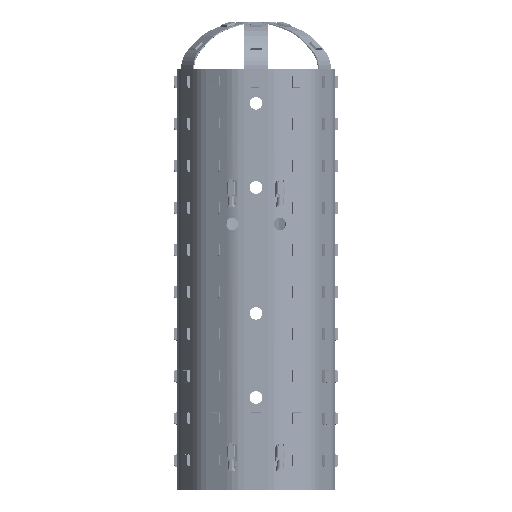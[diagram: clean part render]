
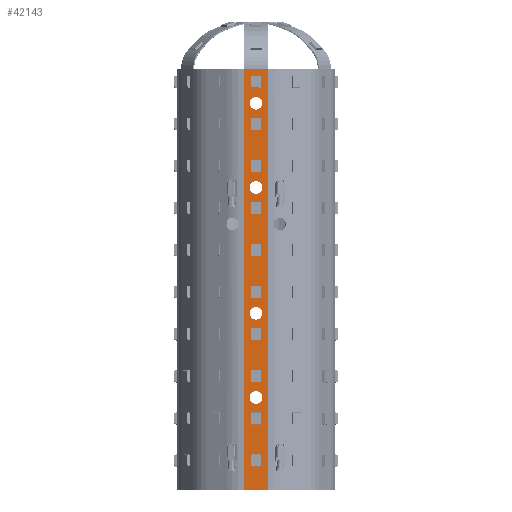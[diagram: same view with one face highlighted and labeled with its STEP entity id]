
A CAD part, top view. The second image highlights one B-rep face of the part: STEP entity #42143.
In plain terms, the highlighted planar face has unit normal (0, 0, 1).
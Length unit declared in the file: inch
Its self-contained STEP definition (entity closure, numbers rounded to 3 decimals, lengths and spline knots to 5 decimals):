
#117 = DIRECTION ( 'NONE',  ( 1., 0., 0. ) ) ;
#801 = EDGE_CURVE ( 'NONE', #46027, #14134, #8092, .T. ) ;
#1041 = CARTESIAN_POINT ( 'NONE',  ( 0.072, 1.992, 0.897 ) ) ;
#1178 = EDGE_CURVE ( 'NONE', #15787, #28617, #3547, .T. ) ;
#1180 = DIRECTION ( 'NONE',  ( 0., 0., 1. ) ) ;
#1655 = ORIENTED_EDGE ( 'NONE', *, *, #801, .T. ) ;
#1659 = FACE_BOUND ( 'NONE', #34094, .T. ) ;
#1983 = CIRCLE ( 'NONE', #31555, 0.072 ) ;
#2302 = CIRCLE ( 'NONE', #28793, 0.072 ) ;
#2389 = FACE_BOUND ( 'NONE', #22371, .T. ) ;
#2731 = CARTESIAN_POINT ( 'NONE',  ( 0.1365, 4.75, 0.897 ) ) ;
#3547 = LINE ( 'NONE', #22321, #46512 ) ;
#4194 = CIRCLE ( 'NONE', #5724, 0.072 ) ;
#4437 = LINE ( 'NONE', #15206, #29948 ) ;
#4469 = CIRCLE ( 'NONE', #36345, 0.072 ) ;
#4730 = EDGE_CURVE ( 'NONE', #5256, #45262, #16527, .T. ) ;
#5202 = ORIENTED_EDGE ( 'NONE', *, *, #30652, .F. ) ;
#5256 = VERTEX_POINT ( 'NONE', #16736 ) ;
#5317 = DIRECTION ( 'NONE',  ( 0., 0., 1. ) ) ;
#5724 = AXIS2_PLACEMENT_3D ( 'NONE', #19692, #1180, #31375 ) ;
#5897 = LINE ( 'NONE', #6844, #25333 ) ;
#6023 = ORIENTED_EDGE ( 'NONE', *, *, #46268, .F. ) ;
#6407 = AXIS2_PLACEMENT_3D ( 'NONE', #33846, #25870, #44050 ) ;
#6844 = CARTESIAN_POINT ( 'NONE',  ( 0.1375, 4.75, 0.897 ) ) ;
#6895 = EDGE_CURVE ( 'NONE', #15787, #28479, #14199, .T. ) ;
#7175 = EDGE_CURVE ( 'NONE', #8995, #8964, #4194, .T. ) ;
#7630 = EDGE_CURVE ( 'NONE', #8964, #8995, #13564, .T. ) ;
#8092 = LINE ( 'NONE', #37760, #30223 ) ;
#8607 = AXIS2_PLACEMENT_3D ( 'NONE', #32339, #10180, #28956 ) ;
#8964 = VERTEX_POINT ( 'NONE', #15129 ) ;
#8975 = PLANE ( 'NONE',  #45349 ) ;
#8995 = VERTEX_POINT ( 'NONE', #40671 ) ;
#9704 = DIRECTION ( 'NONE',  ( 0., 0., -1. ) ) ;
#10180 = DIRECTION ( 'NONE',  ( 0., 0., 1. ) ) ;
#10548 = VECTOR ( 'NONE', #34529, 39.37008 ) ;
#10588 = CARTESIAN_POINT ( 'NONE',  ( 0.1365, 4.75, 0.897 ) ) ;
#11246 = VERTEX_POINT ( 'NONE', #44401 ) ;
#11922 = CARTESIAN_POINT ( 'NONE',  ( -0.1365, 4.75, 0.897 ) ) ;
#12867 = CARTESIAN_POINT ( 'NONE',  ( 0.1375, 4.75, 0.897 ) ) ;
#12872 = ORIENTED_EDGE ( 'NONE', *, *, #47851, .F. ) ;
#13133 = DIRECTION ( 'NONE',  ( 1., 0., 0. ) ) ;
#13564 = CIRCLE ( 'NONE', #40771, 0.072 ) ;
#14057 = EDGE_CURVE ( 'NONE', #28617, #14134, #4437, .T. ) ;
#14134 = VERTEX_POINT ( 'NONE', #25702 ) ;
#14199 = LINE ( 'NONE', #2731, #37561 ) ;
#14262 = DIRECTION ( 'NONE',  ( 1., 0., 0. ) ) ;
#14550 = VERTEX_POINT ( 'NONE', #47902 ) ;
#15097 = DIRECTION ( 'NONE',  ( 1., 0., 0. ) ) ;
#15129 = CARTESIAN_POINT ( 'NONE',  ( 0.072, 1.042, 0.897 ) ) ;
#15206 = CARTESIAN_POINT ( 'NONE',  ( 0.1375, 4.75, 0.897 ) ) ;
#15716 = VERTEX_POINT ( 'NONE', #43441 ) ;
#15787 = VERTEX_POINT ( 'NONE', #10588 ) ;
#16294 = CARTESIAN_POINT ( 'NONE',  ( -0.1375, 4.75, 0.897 ) ) ;
#16442 = ORIENTED_EDGE ( 'NONE', *, *, #28750, .F. ) ;
#16527 = CIRCLE ( 'NONE', #6407, 0.072 ) ;
#16570 = ORIENTED_EDGE ( 'NONE', *, *, #1178, .F. ) ;
#16674 = ORIENTED_EDGE ( 'NONE', *, *, #7175, .F. ) ;
#16736 = CARTESIAN_POINT ( 'NONE',  ( -0.072, 4.362, 0.897 ) ) ;
#16765 = DIRECTION ( 'NONE',  ( 0., 0., 1. ) ) ;
#17621 = DIRECTION ( 'NONE',  ( -1., 0., 0. ) ) ;
#18508 = DIRECTION ( 'NONE',  ( 0., 0., 1. ) ) ;
#18643 = CARTESIAN_POINT ( 'NONE',  ( 0., 1.042, 0.897 ) ) ;
#19107 = VERTEX_POINT ( 'NONE', #1041 ) ;
#19692 = CARTESIAN_POINT ( 'NONE',  ( 0., 1.042, 0.897 ) ) ;
#20514 = EDGE_LOOP ( 'NONE', ( #27725, #12872 ) ) ;
#20896 = ORIENTED_EDGE ( 'NONE', *, *, #7630, .F. ) ;
#21723 = ORIENTED_EDGE ( 'NONE', *, *, #30655, .T. ) ;
#22321 = CARTESIAN_POINT ( 'NONE',  ( 0.1375, 4.75, 0.897 ) ) ;
#22371 = EDGE_LOOP ( 'NONE', ( #20896, #16674 ) ) ;
#23605 = LINE ( 'NONE', #16294, #10548 ) ;
#23685 = EDGE_CURVE ( 'NONE', #14550, #28479, #5897, .T. ) ;
#23848 = DIRECTION ( 'NONE',  ( -1., 0., 0. ) ) ;
#24028 = CIRCLE ( 'NONE', #36447, 0.072 ) ;
#24568 = FACE_BOUND ( 'NONE', #33573, .T. ) ;
#25333 = VECTOR ( 'NONE', #28320, 39.37008 ) ;
#25552 = ORIENTED_EDGE ( 'NONE', *, *, #14057, .F. ) ;
#25702 = CARTESIAN_POINT ( 'NONE',  ( 0.1375, 0., 0.897 ) ) ;
#25870 = DIRECTION ( 'NONE',  ( 0., 0., 1. ) ) ;
#26553 = CARTESIAN_POINT ( 'NONE',  ( 0., 1.992, 0.897 ) ) ;
#27722 = DIRECTION ( 'NONE',  ( 1., 0., 0. ) ) ;
#27725 = ORIENTED_EDGE ( 'NONE', *, *, #34187, .F. ) ;
#28231 = DIRECTION ( 'NONE',  ( 1., 0., 0. ) ) ;
#28320 = DIRECTION ( 'NONE',  ( 1., 0., 0. ) ) ;
#28479 = VERTEX_POINT ( 'NONE', #11922 ) ;
#28617 = VERTEX_POINT ( 'NONE', #30916 ) ;
#28750 = EDGE_CURVE ( 'NONE', #15716, #38048, #29651, .T. ) ;
#28793 = AXIS2_PLACEMENT_3D ( 'NONE', #26553, #18508, #15097 ) ;
#28956 = DIRECTION ( 'NONE',  ( 1., 0., 0. ) ) ;
#29621 = DIRECTION ( 'NONE',  ( 0., 0., 1. ) ) ;
#29651 = CIRCLE ( 'NONE', #8607, 0.072 ) ;
#29858 = ORIENTED_EDGE ( 'NONE', *, *, #4730, .F. ) ;
#29948 = VECTOR ( 'NONE', #41226, 39.37008 ) ;
#30223 = VECTOR ( 'NONE', #28231, 39.37008 ) ;
#30652 = EDGE_CURVE ( 'NONE', #45262, #5256, #1983, .T. ) ;
#30655 = EDGE_CURVE ( 'NONE', #14550, #46027, #23605, .T. ) ;
#30916 = CARTESIAN_POINT ( 'NONE',  ( 0.1375, 4.75, 0.897 ) ) ;
#31375 = DIRECTION ( 'NONE',  ( 1., 0., 0. ) ) ;
#31555 = AXIS2_PLACEMENT_3D ( 'NONE', #42761, #16765, #27722 ) ;
#32339 = CARTESIAN_POINT ( 'NONE',  ( 0., 3.412, 0.897 ) ) ;
#33573 = EDGE_LOOP ( 'NONE', ( #6023, #16442 ) ) ;
#33846 = CARTESIAN_POINT ( 'NONE',  ( 0., 4.362, 0.897 ) ) ;
#34094 = EDGE_LOOP ( 'NONE', ( #5202, #29858 ) ) ;
#34187 = EDGE_CURVE ( 'NONE', #19107, #11246, #2302, .T. ) ;
#34529 = DIRECTION ( 'NONE',  ( 0., -1., 0. ) ) ;
#36345 = AXIS2_PLACEMENT_3D ( 'NONE', #38935, #46222, #13133 ) ;
#36447 = AXIS2_PLACEMENT_3D ( 'NONE', #45726, #5317, #45958 ) ;
#37561 = VECTOR ( 'NONE', #17621, 39.37008 ) ;
#37760 = CARTESIAN_POINT ( 'NONE',  ( 0.1375, 0., 0.897 ) ) ;
#38048 = VERTEX_POINT ( 'NONE', #46948 ) ;
#38654 = FACE_OUTER_BOUND ( 'NONE', #46349, .T. ) ;
#38935 = CARTESIAN_POINT ( 'NONE',  ( 0., 1.992, 0.897 ) ) ;
#40671 = CARTESIAN_POINT ( 'NONE',  ( -0.072, 1.042, 0.897 ) ) ;
#40771 = AXIS2_PLACEMENT_3D ( 'NONE', #18643, #29621, #14262 ) ;
#41226 = DIRECTION ( 'NONE',  ( 0., -1., 0. ) ) ;
#42143 = ADVANCED_FACE ( 'NONE', ( #1659, #24568, #42296, #2389, #38654 ), #8975, .F. ) ;
#42296 = FACE_BOUND ( 'NONE', #20514, .T. ) ;
#42516 = CARTESIAN_POINT ( 'NONE',  ( 0.072, 4.362, 0.897 ) ) ;
#42761 = CARTESIAN_POINT ( 'NONE',  ( 0., 4.362, 0.897 ) ) ;
#43441 = CARTESIAN_POINT ( 'NONE',  ( -0.072, 3.412, 0.897 ) ) ;
#44050 = DIRECTION ( 'NONE',  ( 1., 0., 0. ) ) ;
#44401 = CARTESIAN_POINT ( 'NONE',  ( -0.072, 1.992, 0.897 ) ) ;
#45262 = VERTEX_POINT ( 'NONE', #42516 ) ;
#45349 = AXIS2_PLACEMENT_3D ( 'NONE', #12867, #9704, #23848 ) ;
#45726 = CARTESIAN_POINT ( 'NONE',  ( 0., 3.412, 0.897 ) ) ;
#45958 = DIRECTION ( 'NONE',  ( 1., 0., 0. ) ) ;
#46027 = VERTEX_POINT ( 'NONE', #47219 ) ;
#46222 = DIRECTION ( 'NONE',  ( 0., 0., 1. ) ) ;
#46268 = EDGE_CURVE ( 'NONE', #38048, #15716, #24028, .T. ) ;
#46349 = EDGE_LOOP ( 'NONE', ( #1655, #25552, #16570, #46513, #47094, #21723 ) ) ;
#46512 = VECTOR ( 'NONE', #117, 39.37008 ) ;
#46513 = ORIENTED_EDGE ( 'NONE', *, *, #6895, .T. ) ;
#46948 = CARTESIAN_POINT ( 'NONE',  ( 0.072, 3.412, 0.897 ) ) ;
#47094 = ORIENTED_EDGE ( 'NONE', *, *, #23685, .F. ) ;
#47219 = CARTESIAN_POINT ( 'NONE',  ( -0.1375, 0., 0.897 ) ) ;
#47851 = EDGE_CURVE ( 'NONE', #11246, #19107, #4469, .T. ) ;
#47902 = CARTESIAN_POINT ( 'NONE',  ( -0.1375, 4.75, 0.897 ) ) ;
